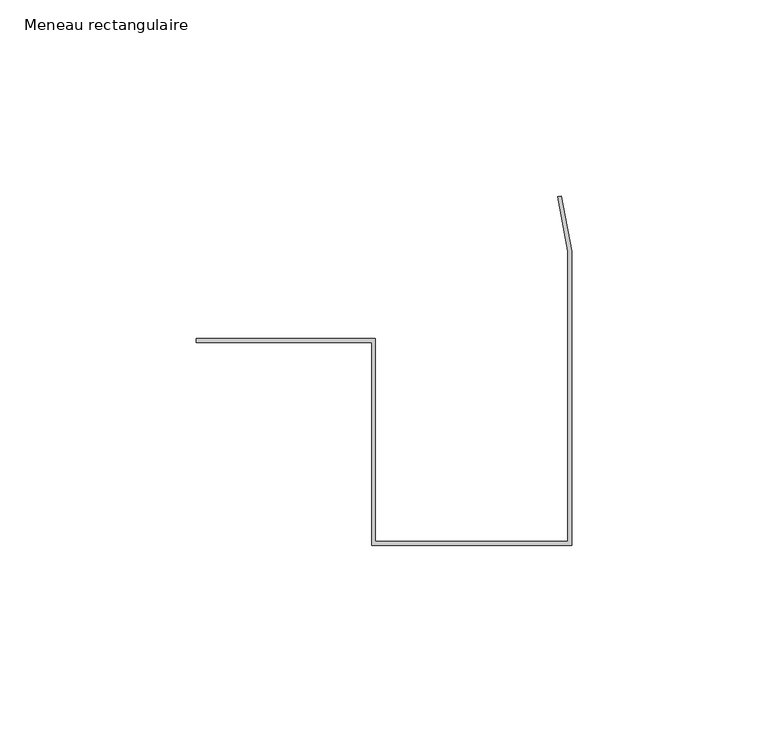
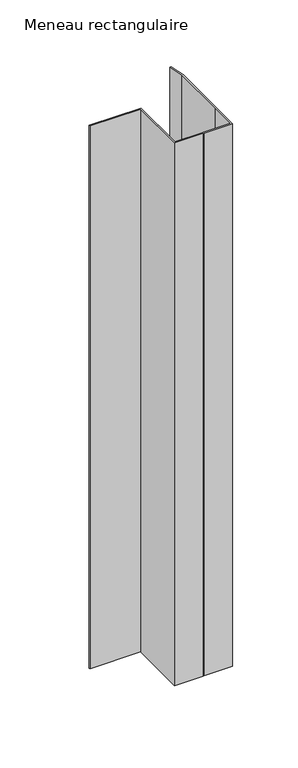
"""IFC4 building model written with IfcOpenShell, lengths in millimetres: member geometry, Meneau rectangulaire : Jonction contre mur Droite H."""

from ifc_helpers import new_model, si_unit, frame, origin, place, context, project, spatial, polyline, outline, extrude, source, transform, mapped, element, save


def meneau_rectangulaire_b7cbe6b9(model_context):
    return source(origin(), model_context, "Body", "SweptSolid", [
        extrude(outline(polyline([(-1.0, 26.3798616), (-3.6043568, 40.2461331), (-2.6384309, 40.4275528), (0.0, 26.3798616), (0.0, -23.6201384), (0.0, -48.6201384), (-25.0, -48.6201384), (-26.0, -48.6201384), (-51.0, -48.6201384), (-51.0, 3.1), (-95.6686418, 3.1), (-95.6686418, 4.1), (-50.0, 4.1), (-50.0, -47.6201384), (-26.0, -47.6201384), (-25.0, -47.6201384), (-1.0, -47.6201384), (-1.0, -23.6201384), (-1.0, 26.3798616)])), frame((0.0, 0.0, -505.0), z_axis=(0.0, 0.0, 1.0), x_axis=(1.0, 0.0, 0.0)), (0.0, 0.0, 1.0), 505.0),
    ])


if __name__ == "__main__":
    model = new_model("IFC4")
    model_context = context("Model", 3, world=origin())
    ifc_project = project(units=[si_unit("LENGTHUNIT", "METRE", prefix="MILLI")], contexts=[model_context])
    site = spatial("IfcSite", under=ifc_project)
    building = spatial("IfcBuilding", under=site)
    placement = place(None, origin())
    meneau_rectangulaire_shape = meneau_rectangulaire_b7cbe6b9(model_context)
    element("IfcMember", 1, ObjectType="Meneau rectangulaire : Jonction contre mur Droite H", at=placement, inside=building, context=model_context, shape_type="MappedRepresentation", body=[
        mapped(meneau_rectangulaire_shape, transform((0.0, 0.0, 0.0), x_axis=(1.0, 0.0, 0.0), y_axis=(0.0, 1.0, 0.0), z_axis=(0.0, 0.0, 1.0))),
    ])
    save(model, "model.ifc")
